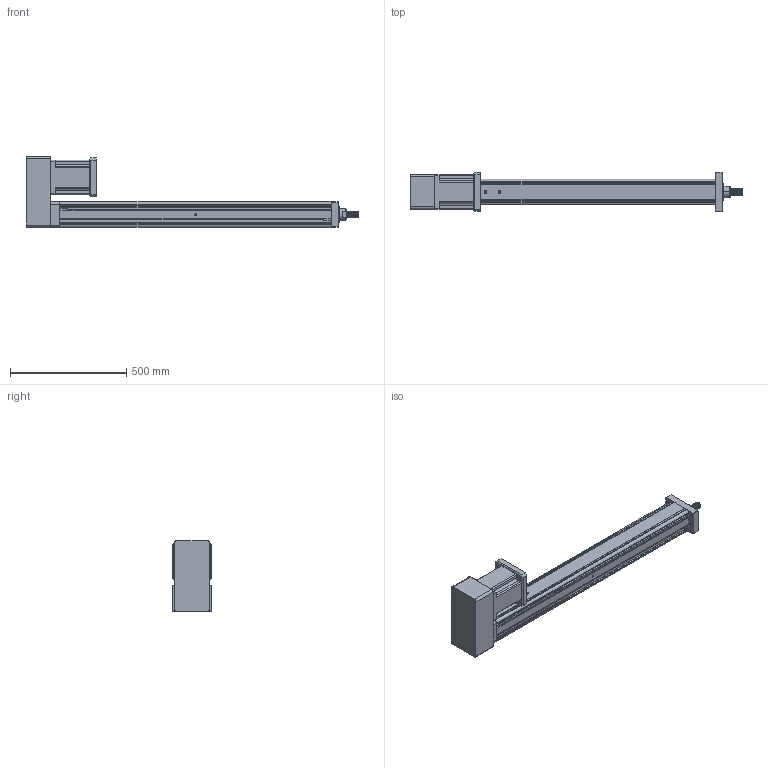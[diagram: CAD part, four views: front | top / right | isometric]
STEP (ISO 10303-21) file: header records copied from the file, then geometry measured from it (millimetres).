
FILE_DESCRIPTION (( 'STEP AP203' ), '1' );
FILE_NAME ('YRJ110-L1000-H3K1.STEP', '2020-01-04T06:28:54', ( 'User' ), ( 'China' ), 'SwSTEP 2.0', 'SolidWorks 2016', '' );
FILE_SCHEMA (( 'CONFIG_CONTROL_DESIGN' ));
Length unit declared in the file: millimetre
Products named in the file (7): H3-110-1; YRJ110-L1000-H3K1; H3-110-2; K1-110; 095-100俴最倰第; 萇儂碟-110; 142熬厒儂
Assembly tree (6 placements, depth 2):
  YRJ110-L1000-H3K1
    095-100俴最倰第
    萇儂碟-110
    142熬厒儂
    H3-110-1
    H3-110-2
    K1-110
Bounding box: 1431 x 170 x 305.5 mm (x, y, z)
Volume: 14738423.3 mm3; surface area: 1510779.4 mm2
Topology: 6 solids, 6 shells, 359 faces, 1001 edges, 648 vertices
Faces by surface type: plane 168, cylinder 160, cone 27, bspline 4
Entity records: 20190 total; most frequent: CARTESIAN_POINT 10350, ORIENTED_EDGE 1970, DIRECTION 1827, EDGE_CURVE 985, VERTEX_POINT 648, LINE 617, VECTOR 617, AXIS2_PLACEMENT_3D 605
